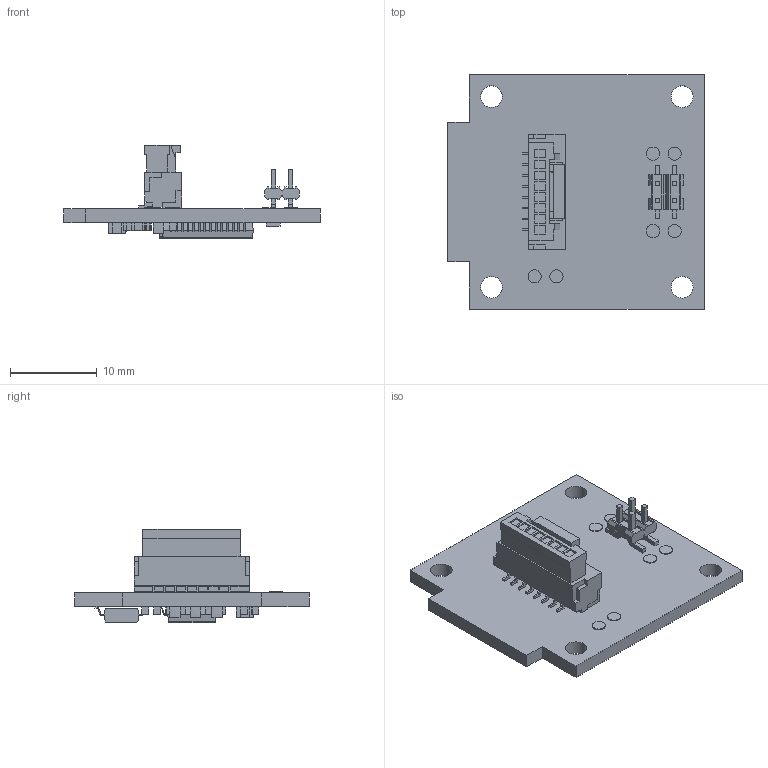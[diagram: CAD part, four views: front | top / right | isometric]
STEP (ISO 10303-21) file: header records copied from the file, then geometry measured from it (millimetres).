
FILE_DESCRIPTION(('Open CASCADE Model'),'2;1');
FILE_NAME('Open CASCADE Shape Model','2025-12-10T15:41:41',('Author'),( 'Open CASCADE'),'Open CASCADE STEP processor 7.5','Open CASCADE 7.5' ,'Unknown');
FILE_SCHEMA(('AUTOMOTIVE_DESIGN { 1 0 10303 214 1 1 1 1 }'));
Length unit declared in the file: millimetre
Products named in the file (70): PCB; Board; Open CASCADE STEP translator 7.5 2.1.1; TPT101; TP-60mil; TPT100; J100; 57202f5102alf; CN2; BM08B-GHS-TBT + GHR-08V-S; bm08b-ghs-tbt; GHR-08V-S; R101; cr0603; C114; CAPC1608X09; C113; C112; C111; SMD_Capacitors_0805_T1e25; C110; C109; C108; C106; U101; IC-SSOP28; IC-SSOP28-AM256_ASM; PADRAO_LINEAR2_18_; PADRAO_LINEAR2_12_; PADRAO_LINEAR2_9_; PADRAO_LINEAR2_19_; PADRAO_LINEAR2_7_; PADRAO_LINEAR2_13_; PADRAO_LINEAR2_22_; PADRAO_LINEAR2_23_; CUT-EXTRUDE1; PADRAO_LINEAR2_10_; PADRAO_LINEAR2_17_; PADRAO_LINEAR2_11_; PADRAO_LINEAR2_14_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
Assembly tree (87 placements, depth 5):
  PCB
    Board
      Open CASCADE STEP translator 7.5 2.1.1
    TPT101
      TP-60mil
    TPT100
      TP-60mil
    J100
      57202f5102alf
    CN2
      BM08B-GHS-TBT + GHR-08V-S
        bm08b-ghs-tbt
        GHR-08V-S
    R101
      cr0603
    C114
      CAPC1608X09
    C113
      CAPC1608X09
    C112
      CAPC1608X09
    C111
      SMD_Capacitors_0805_T1e25
    C110
      SMD_Capacitors_0805_T1e25
    C109
      CAPC1608X09
    C108
      CAPC1608X09
    C106
      CAPC1608X09
    U101
      IC-SSOP28
        IC-SSOP28-AM256_ASM
          PADRAO_LINEAR2_18_
          PADRAO_LINEAR2_12_
          PADRAO_LINEAR2_9_
          PADRAO_LINEAR2_19_
          PADRAO_LINEAR2_7_
          PADRAO_LINEAR2_13_
          PADRAO_LINEAR2_22_
          PADRAO_LINEAR2_23_
          CUT-EXTRUDE1
          PADRAO_LINEAR2_10_
          PADRAO_LINEAR2_17_
          PADRAO_LINEAR2_11_
          PADRAO_LINEAR2_14_
          PADRAO_LINEAR2_15_
          PADRAO_LINEAR2_16_
          EXTRUSAO3_1_
          EXTRUSAO3_2_
          PADRAO_LINEAR2_4_
          PADRAO_LINEAR2_5_
          EXTRUSAO2
          PADRAO_LINEAR2_6_
          PADRAO_LINEAR2_3_
          PADRAO_LINEAR2_2_
          PADRAO_LINEAR2_21_
          PADRAO_LINEAR2_24_
          PADRAO_LINEAR2_25_
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Bounding box: 29.5 x 27 x 10.79 mm (x, y, z)
Volume: 1711.5 mm3; surface area: 3306.3 mm2
Topology: 66 solids, 66 shells, 1795 faces, 4471 edges, 2720 vertices
Faces by surface type: plane 1111, cylinder 524, bspline 160
Full cylindrical faces by diameter (mm): 1.524 x6, 2.5 x4
Entity records: 43116 total; most frequent: CARTESIAN_POINT 6813, ORIENTED_EDGE 6136, DIRECTION 6103, EDGE_CURVE 3068, LINE 2483, VECTOR 2483, VERTEX_POINT 1990, AXIS2_PLACEMENT_3D 1810
